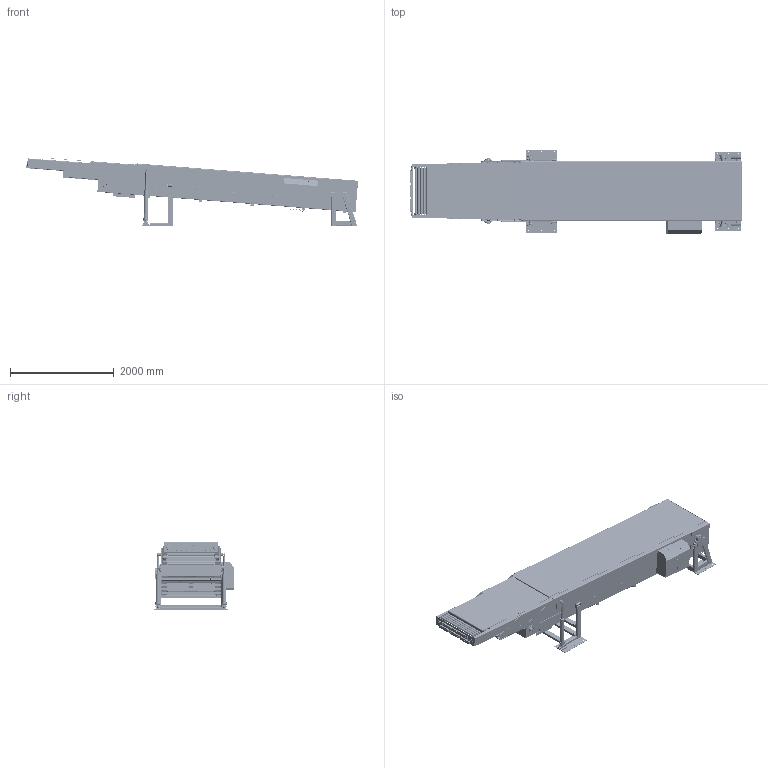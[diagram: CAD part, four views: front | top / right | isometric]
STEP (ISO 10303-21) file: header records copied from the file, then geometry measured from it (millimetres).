
FILE_DESCRIPTION(/* description */ (''),/* implementation_level */ '2;1');
FILE_NAME(/* name */ 'beltconveyor_a128_w940_l11000.stp',/* time_stamp */ '2025-01-13T21:11:43+08:00',/* author */ (''),/* organization */ (''),/* preprocessor_version */ 'ST-DEVELOPER v16.7',/* originating_system */ 'SIEMENS PLM Software NX 12.0',/* authorisation */ '');
FILE_SCHEMA (('AUTOMOTIVE_DESIGN { 1 0 10303 214 3 1 1 1 }'));
Products named in the file (112): 滾筒軸; 滾筒軸 2; 滾筒軸 3; 滾筒滾輪; 滾筒軸承蓋; 滾筒套管; deep groove ball bearings gb_Rolling bearings 6208 GB 276-94; TZ12005-M03-U01-P18_默认_按加工_; TZ12005-M03-U01-P11; TZ12005-M03-U01-P04; 推桿; TZ12005-M03-U01-P05; 缸筒; TZ12005-M03-U01-P03; TZ12005-M03-U01-P32; TZ12005-M03-U01-P31; TZ12005-M03-U01-P08; TZ12005-M03-U01-P24; TZ12005-M03-U01-P12; TZ12005-M03-U01-P29; TZ12005-M03-U01-P25; TZ12005-M03-U01-P20; TZ12005-M03-U01-P09; UCF210_預設; TZ12005-M03-U01-P27; TZ12005-M03-U01-P16; 電器箱; TZ12005-M03-U01-P13; TZ12005-M03-U01-P02; TZ12005-M03-U01-P07; TZ12005-M03-U01-P14; TZ12005-M03-U01-P26; deep groove ball bearings gb_Rolling bearings 6002 GB 276-94; transmission roller chain sprocket_s_jis_JIS B 1802 Sprocket 50-2, N2
1 S --21SB89H45L35R1; UCP211_預設; tapered roller bearings gb_Rolling bearings 32910 GB 297-94; TZ12005-M03-U01-P21; TZ12005-M03-U01-P28; TZ12005-M03-U01-P19; TZ12005-M03-U01-P33_默认_按加工_ ...
Assembly tree (291 placements, depth 4):
  beltconveyor_a128_w940_l11000
    TZ12005-M03-U02-A01
      hexagon head bolts-full thread gb_PreviewCfg  x14
      hex nuts 1-fine pitch-grades ab gb_PreviewCfg  x18
      deep groove ball bearings gb_Rolling bearings 6203 GB 276-94  x16
      TZ12005-M03-U02-P27  x6
      TZ12005-M03-U02-P30  x8
      transmission roller chain sprocket_s_jis_PreviewCfg  x3
      R67DT80N4-M1
      TZ12005-M03-U02-P31  x8
      TZ12005-M03-U02-P19
      tapered roller bearings gb_PreviewCfg  x4
      TZ12005-M03-U02-P28  x4
      TZ12005-M03-U02-P03  x2
      TZ12005-M03-U02-P10  x2
      TZ12005-M03-U02-P11
      hex nuts, style 1-grades ab gb_GB_FASTENER_NUT_SNAB1 M8-N  x12
      TZ12005-M03-U02-P25
      TZ12005-M03-U02-P29  x4
      TZ12005-M03-U02-P07  x2
      TZ12005-M03-U02-P34_默认_按加工_
      TZ12005-M03-U02-P01
      TZ12005-M03-U02-P02  x2
      TZ12005-M03-U02-P06
      TZ12005-M03-U02-P33
      TZ12005-M03-U02-P18  x2
      TZ12005-M03-U02-P26
      TZ12005-M03-U02-P32  x2
      TZ12005-M03-U02-P17
      TZ12005-M03-U02-P20
      TZ12005-M03-U02-P22
      TZ12005-M03-U02-P23  x2
      TZ12005-M03-U02-P12  x2
      TZ12005-M03-U02-P08  x2
      UCP207_預設  x2
      TZ12005-M03-U02-P13
      TZ12005-M03-U02-P09
      TZ12005-M03-U02-P04
      TZ12005-M03-U02-P16
    伸縮機封板
    TZ12005-M03-U03-A01
      電滾筒  x2
      TZ12005-M03-U03-P07  x4
      hexagon head bolts-full thread gb_PreviewCfg  x7
      hex nuts, style 1-grades ab gb_GB_FASTENER_NUT_SNAB1 M8-N  x4
      TZ12005-M03-U03-P14  x2
      TZ12005-M03-U03-P08  x4
      TZ12005-M03-U03-P10  x2
      滾筒3
        deep groove ball bearings gb_Rolling bearings 6208 GB 276-94  x2
        滾筒套管  x2
        滾筒軸承蓋  x2
        滾筒滾輪  x2
        滾筒軸 3
      TZ12005-M03-U03-P04  x6
      TZ12005-M03-U03-P13
      TZ12005-M03-U03-P01_默认_按加工_
      deep groove ball bearings gb_Rolling bearings 6203 GB 276-94  x3
      TZ12005-M03-U03-P09  x3
      TZ12005-M03-U03-P11
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Bounding box: 6414.31 x 1635.76 x 1325.27 mm (x, y, z)
Volume: 305522533.8 mm3; surface area: 111999643.6 mm2
Topology: 571 solids, 577 shells, 17684 faces, 54157 edges, 35181 vertices
Faces by surface type: plane 6206, cylinder 4457, torus 3115, cone 1812, sphere 992, bspline 610, extrusion 492
Entity records: 347858 total; most frequent: CARTESIAN_POINT 108991, ORIENTED_EDGE 49498, DIRECTION 43067, EDGE_CURVE 24749, VERTEX_POINT 16164, AXIS2_PLACEMENT_3D 15173, VECTOR 12721, LINE 12229
